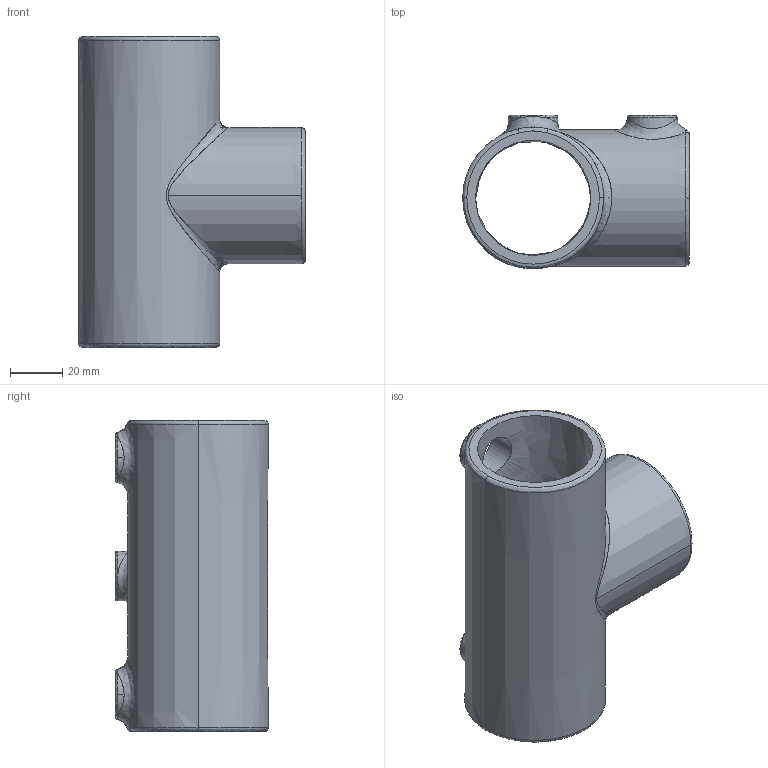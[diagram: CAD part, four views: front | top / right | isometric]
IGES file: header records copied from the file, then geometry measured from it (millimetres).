
Global section: file name: C:\Documents and Settings\Administrator\Desktop\Transfer Temp\kk25-7.igs; native system: AutoDesk Inventor R2.0 ; preprocessor: AutoDesk Inventor Iges Exporter R2.0; author: No Author specified; organization: No Organization specified; date: 20020101.003113; units: inch
Bounding box: 87 x 58.8 x 119.38 mm (x, y, z)
Surface area: 48322.3 mm2 (no closed solid volume)
Topology: 0 solids, 0 shells, 56 faces, 318 edges, 318 vertices
Faces by surface type: revolution 29, bspline 27
